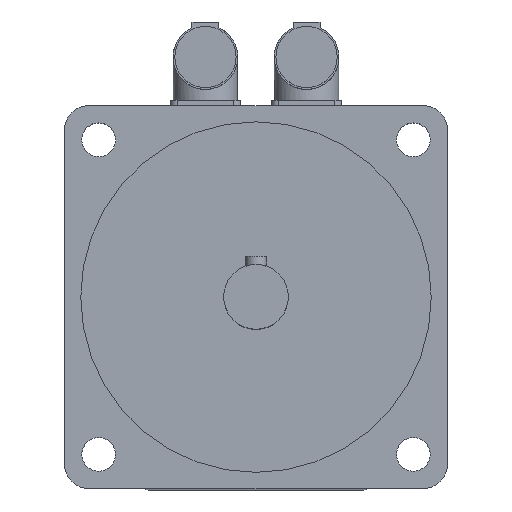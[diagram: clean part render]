
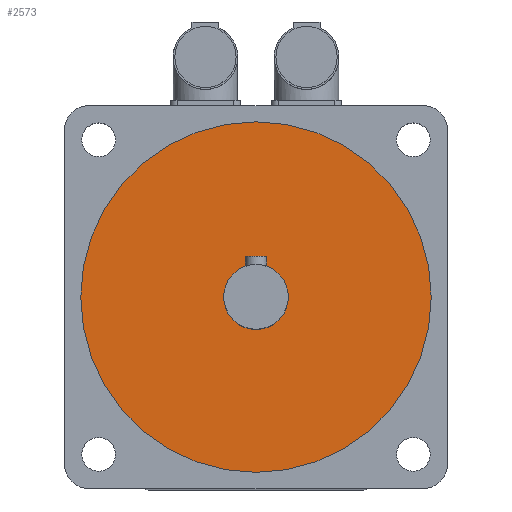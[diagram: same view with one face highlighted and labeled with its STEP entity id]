
A CAD part, top view. The second image highlights one B-rep face of the part: STEP entity #2573.
In plain terms, the highlighted planar face has unit normal (0, 0, 1).
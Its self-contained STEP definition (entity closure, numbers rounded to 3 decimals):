
#40=FACE_BOUND('',#443,.T.);
#68=CIRCLE('',#2730,12.);
#69=CIRCLE('',#2733,65.);
#285=FACE_OUTER_BOUND('',#442,.T.);
#442=EDGE_LOOP('',(#1750));
#443=EDGE_LOOP('',(#1751));
#1090=VERTEX_POINT('',#3908);
#1091=VERTEX_POINT('',#3912);
#1348=EDGE_CURVE('',#1090,#1090,#68,.T.);
#1349=EDGE_CURVE('',#1091,#1091,#69,.T.);
#1750=ORIENTED_EDGE('',*,*,#1349,.T.);
#1751=ORIENTED_EDGE('',*,*,#1348,.T.);
#2497=PLANE('',#2735);
#2573=ADVANCED_FACE('',(#285,#40),#2497,.F.);
#2730=AXIS2_PLACEMENT_3D('',#3909,#3045,#3046);
#2733=AXIS2_PLACEMENT_3D('',#3913,#3051,#3052);
#2735=AXIS2_PLACEMENT_3D('',#3916,#3055,#3056);
#3045=DIRECTION('center_axis',(0.,0.,
-1.));
#3046=DIRECTION('ref_axis',(-1.,0.,0.));
#3051=DIRECTION('center_axis',(0.,0.,
1.));
#3052=DIRECTION('ref_axis',(-1.,0.,0.));
#3055=DIRECTION('center_axis',(0.,0.,
-1.));
#3056=DIRECTION('ref_axis',(-1.,0.,0.));
#3908=CARTESIAN_POINT('',(12.,0.,296.5));
#3909=CARTESIAN_POINT('Origin',(0.,0.,
296.5));
#3912=CARTESIAN_POINT('',(65.,0.,296.5));
#3913=CARTESIAN_POINT('Origin',(0.,0.,
296.5));
#3916=CARTESIAN_POINT('Origin',(0.,0.,
296.5));
